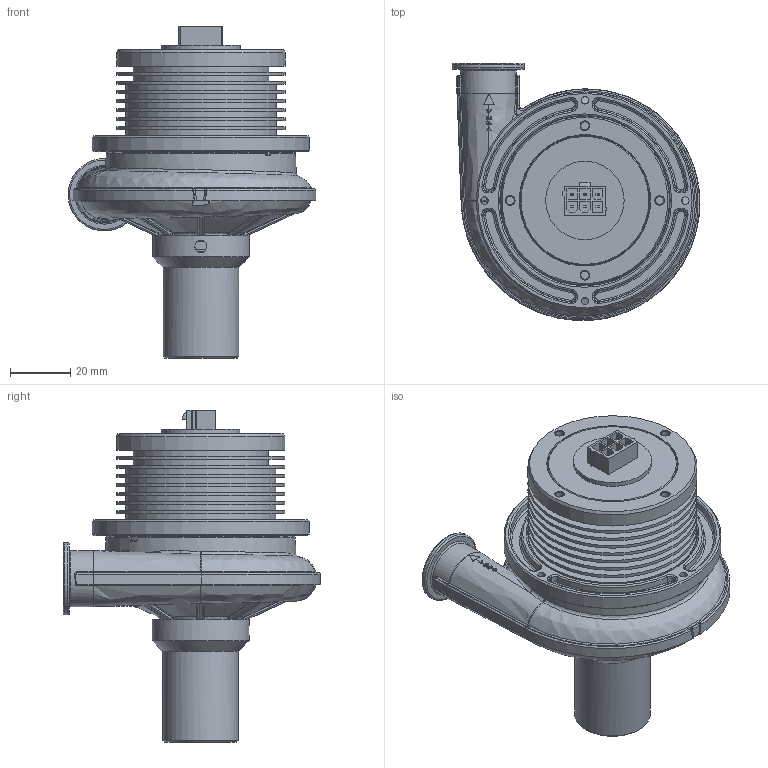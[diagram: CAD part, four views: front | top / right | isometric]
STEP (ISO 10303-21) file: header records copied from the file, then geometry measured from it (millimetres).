
FILE_DESCRIPTION(/* description */ (''),/* implementation_level */ '2;1');
FILE_NAME(/* name */ 'U85MX-024KE-41.stp',/* time_stamp */ '2024-06-20T16:13:57+02:00',/* author */ (''),/* organization */ (''),/* preprocessor_version */ 'ST-DEVELOPER v16.7',/* originating_system */ 'SIEMENS PLM Software NX 1946',/* authorisation */ '');
FILE_SCHEMA (('AUTOMOTIVE_DESIGN { 1 0 10303 214 3 1 1 1 }'));
Length unit declared in the file: millimetre
Products named in the file (1): 021750_1-U85MX-024KE-41_simple _-_
Bounding box: 82.09 x 85.25 x 110 mm (x, y, z)
Volume: 189442.3 mm3; surface area: 45375.3 mm2
Topology: 1 solids, 1 shells, 959 faces, 2347 edges, 1449 vertices
Faces by surface type: plane 359, bspline 243, cylinder 242, cone 56, torus 45, sphere 12, extrusion 1, revolution 1
Full cylindrical faces by diameter (mm): 2.5 x4, 2.75 x4, 4 x1, 14.5 x1, 18.5 x1, 19 x1, 23 x1, 23.34 x1, 24 x1, 25 x1, 26 x1, 27 x1, 27.1 x1, 32.1 x1, 43 x1, 45 x2, 50 x7, 56 x9, 72 x1
Entity records: 36478 total; most frequent: CARTESIAN_POINT 17188, ORIENTED_EDGE 4490, DIRECTION 2986, EDGE_CURVE 2245, VERTEX_POINT 1423, AXIS2_PLACEMENT_3D 1134, EDGE_LOOP 1112, B_SPLINE_CURVE_WITH_KNOTS 1087
